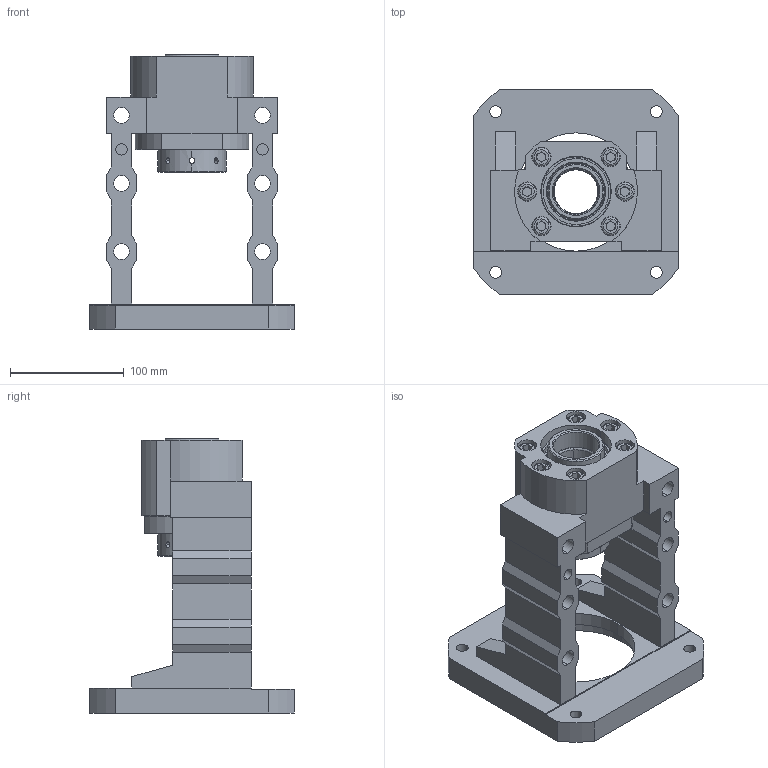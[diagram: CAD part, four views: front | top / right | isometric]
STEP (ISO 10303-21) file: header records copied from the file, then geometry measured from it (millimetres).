
FILE_DESCRIPTION (( 'STEP AP203' ), '1' );
FILE_NAME ('MBCK40-H²Õ¦X¥ó.STEP', '2022-10-20T06:00:23', ( '' ), ( '' ), 'SwSTEP 2.0', 'SolidWorks 2018', '' );
FILE_SCHEMA (( 'CONFIG_CONTROL_DESIGN' ));
Length unit declared in the file: millimetre
Products named in the file (1): MBCK40-H組合件
Bounding box: 180 x 180 x 241 mm (x, y, z)
Surface area: 244697.3 mm2 (no closed solid volume)
Topology: 0 solids, 22 shells, 341 faces, 967 edges, 639 vertices
Faces by surface type: plane 129, cylinder 120, cone 64, torus 18, bspline 10
Entity records: 27698 total; most frequent: CARTESIAN_POINT 18832, DIRECTION 1868, ORIENTED_EDGE 1686, EDGE_CURVE 959, AXIS2_PLACEMENT_3D 703, VERTEX_POINT 639, LINE 462, VECTOR 462
